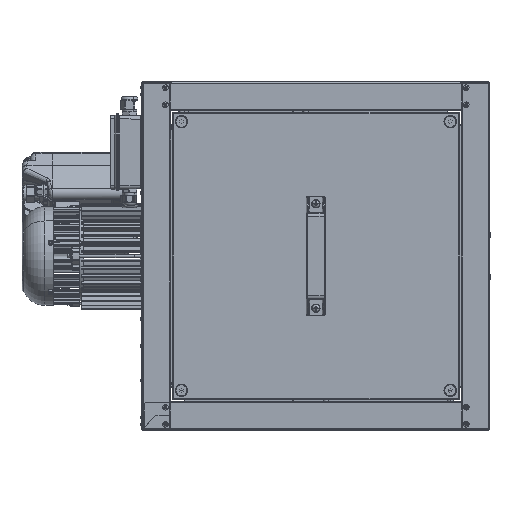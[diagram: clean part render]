
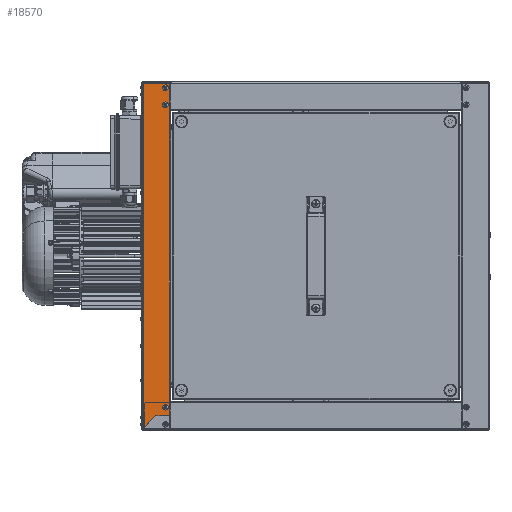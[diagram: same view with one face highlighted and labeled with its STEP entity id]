
A CAD part, left-side view. The second image highlights one B-rep face of the part: STEP entity #18570.
In plain terms, the highlighted planar face has unit normal (-1, 0, 0).
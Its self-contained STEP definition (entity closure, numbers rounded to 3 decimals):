
#2804 = ORIENTED_EDGE ( 'NONE', *, *, #77890, .T. ) ;
#2831 = CIRCLE ( 'NONE', #65256, 2.1 ) ;
#4636 = EDGE_CURVE ( 'NONE', #81532, #29866, #13380, .T. ) ;
#5953 = AXIS2_PLACEMENT_3D ( 'NONE', #75338, #13467, #85769 ) ;
#6343 = VERTEX_POINT ( 'NONE', #51614 ) ;
#9723 = VECTOR ( 'NONE', #104517, 1000. ) ;
#10099 = VERTEX_POINT ( 'NONE', #45377 ) ;
#11770 = CARTESIAN_POINT ( 'NONE',  ( -250., 249.1, -248.45 ) ) ;
#12298 = CARTESIAN_POINT ( 'NONE',  ( -250., 210.2, 248. ) ) ;
#13380 = CIRCLE ( 'NONE', #24421, 2.1 ) ;
#13467 = DIRECTION ( 'NONE',  ( -1., 0., 0. ) ) ;
#13636 = CARTESIAN_POINT ( 'NONE',  ( -250., 216., -217.2 ) ) ;
#15417 = CARTESIAN_POINT ( 'NONE',  ( -250., 210.7, -210.05 ) ) ;
#15542 = CARTESIAN_POINT ( 'NONE',  ( -250., 216., 217.2 ) ) ;
#15855 = VECTOR ( 'NONE', #82272, 1000. ) ;
#17386 = FACE_BOUND ( 'NONE', #42751, .T. ) ;
#18277 = VERTEX_POINT ( 'NONE', #15417 ) ;
#18570 = ADVANCED_FACE ( 'NONE', ( #48072, #17386, #23850, #20629 ), #89501, .F. ) ;
#19778 = CARTESIAN_POINT ( 'NONE',  ( -250., 210.2, 211.65 ) ) ;
#20243 = CARTESIAN_POINT ( 'NONE',  ( -250., 210.7, 211.65 ) ) ;
#20629 = FACE_OUTER_BOUND ( 'NONE', #77263, .T. ) ;
#21026 = DIRECTION ( 'NONE',  ( -1., 0., 0. ) ) ;
#22090 = VERTEX_POINT ( 'NONE', #82343 ) ;
#22259 = VERTEX_POINT ( 'NONE', #118310 ) ;
#23850 = FACE_BOUND ( 'NONE', #107958, .T. ) ;
#23961 = VECTOR ( 'NONE', #69125, 1000. ) ;
#24032 = DIRECTION ( 'NONE',  ( 0., -1., 0. ) ) ;
#24421 = AXIS2_PLACEMENT_3D ( 'NONE', #35332, #117933, #66458 ) ;
#24432 = EDGE_CURVE ( 'NONE', #121245, #65816, #43296, .T. ) ;
#25881 = DIRECTION ( 'NONE',  ( 0., -1., 0. ) ) ;
#25906 = DIRECTION ( 'NONE',  ( 0., -1., 0. ) ) ;
#29414 = VECTOR ( 'NONE', #82807, 1000. ) ;
#29866 = VERTEX_POINT ( 'NONE', #131363 ) ;
#32202 = CARTESIAN_POINT ( 'NONE',  ( -250., 213.9, 241.7 ) ) ;
#33048 = VECTOR ( 'NONE', #41844, 1000. ) ;
#33063 = VERTEX_POINT ( 'NONE', #19778 ) ;
#33497 = VECTOR ( 'NONE', #42975, 1000. ) ;
#34228 = DIRECTION ( 'NONE',  ( -1., 0., 0. ) ) ;
#35160 = LINE ( 'NONE', #78354, #117540 ) ;
#35332 = CARTESIAN_POINT ( 'NONE',  ( -250., 216., 241.7 ) ) ;
#39138 = CIRCLE ( 'NONE', #53049, 2.1 ) ;
#41844 = DIRECTION ( 'NONE',  ( 0., 1., 0. ) ) ;
#42751 = EDGE_LOOP ( 'NONE', ( #94051, #53001 ) ) ;
#42975 = DIRECTION ( 'NONE',  ( 0., 0.707, -0.707 ) ) ;
#43011 = CARTESIAN_POINT ( 'NONE',  ( -250., 210.7, 211.65 ) ) ;
#43296 = LINE ( 'NONE', #78335, #15855 ) ;
#45377 = CARTESIAN_POINT ( 'NONE',  ( -250., 210.2, -210.05 ) ) ;
#46279 = CARTESIAN_POINT ( 'NONE',  ( -250., 218.1, 217.2 ) ) ;
#47155 = EDGE_CURVE ( 'NONE', #22090, #120906, #72453, .T. ) ;
#47387 = VERTEX_POINT ( 'NONE', #20243 ) ;
#48072 = FACE_BOUND ( 'NONE', #129779, .T. ) ;
#48307 = EDGE_CURVE ( 'NONE', #87584, #22259, #57728, .T. ) ;
#49268 = EDGE_CURVE ( 'NONE', #87584, #6343, #60966, .T. ) ;
#49826 = ORIENTED_EDGE ( 'NONE', *, *, #49268, .F. ) ;
#51017 = EDGE_CURVE ( 'NONE', #47387, #33063, #52626, .T. ) ;
#51614 = CARTESIAN_POINT ( 'NONE',  ( -250., 248., -247.35 ) ) ;
#51944 = EDGE_CURVE ( 'NONE', #10099, #18277, #60534, .T. ) ;
#51971 = CARTESIAN_POINT ( 'NONE',  ( -250., 218.1, -217.2 ) ) ;
#52041 = EDGE_CURVE ( 'NONE', #29866, #81532, #78282, .T. ) ;
#52499 = CARTESIAN_POINT ( 'NONE',  ( -250., 210.2, -210.05 ) ) ;
#52626 = LINE ( 'NONE', #43011, #131711 ) ;
#52952 = ORIENTED_EDGE ( 'NONE', *, *, #64750, .F. ) ;
#53001 = ORIENTED_EDGE ( 'NONE', *, *, #66963, .F. ) ;
#53049 = AXIS2_PLACEMENT_3D ( 'NONE', #13636, #85924, #24032 ) ;
#53320 = ORIENTED_EDGE ( 'NONE', *, *, #51944, .T. ) ;
#56182 = ORIENTED_EDGE ( 'NONE', *, *, #24432, .T. ) ;
#56929 = LINE ( 'NONE', #82376, #29414 ) ;
#57728 = LINE ( 'NONE', #85102, #78683 ) ;
#59875 = CIRCLE ( 'NONE', #89460, 2.1 ) ;
#60534 = LINE ( 'NONE', #72955, #33048 ) ;
#60966 = LINE ( 'NONE', #11770, #33497 ) ;
#63786 = EDGE_CURVE ( 'NONE', #133601, #122039, #39138, .T. ) ;
#64616 = ORIENTED_EDGE ( 'NONE', *, *, #63786, .F. ) ;
#64750 = EDGE_CURVE ( 'NONE', #122039, #133601, #59875, .T. ) ;
#65256 = AXIS2_PLACEMENT_3D ( 'NONE', #15542, #87787, #25881 ) ;
#65816 = VERTEX_POINT ( 'NONE', #131978 ) ;
#66458 = DIRECTION ( 'NONE',  ( 0., -1., 0. ) ) ;
#66963 = EDGE_CURVE ( 'NONE', #120906, #22090, #2831, .T. ) ;
#69125 = DIRECTION ( 'NONE',  ( 0., 0., 1. ) ) ;
#70834 = EDGE_CURVE ( 'NONE', #33063, #121245, #106423, .T. ) ;
#72453 = CIRCLE ( 'NONE', #5953, 2.1 ) ;
#72710 = ORIENTED_EDGE ( 'NONE', *, *, #51017, .T. ) ;
#72955 = CARTESIAN_POINT ( 'NONE',  ( -250., 210.7, -210.05 ) ) ;
#75338 = CARTESIAN_POINT ( 'NONE',  ( -250., 216., 217.2 ) ) ;
#76035 = CARTESIAN_POINT ( 'NONE',  ( -250., 213.9, -217.2 ) ) ;
#77263 = EDGE_LOOP ( 'NONE', ( #56182, #96417, #49826, #117519, #2804, #53320, #106706, #72710, #106921 ) ) ;
#77890 = EDGE_CURVE ( 'NONE', #22259, #10099, #92238, .T. ) ;
#78282 = CIRCLE ( 'NONE', #131629, 2.1 ) ;
#78335 = CARTESIAN_POINT ( 'NONE',  ( -250., 210.2, 248. ) ) ;
#78354 = CARTESIAN_POINT ( 'NONE',  ( -250., 210.7, 248.95 ) ) ;
#78683 = VECTOR ( 'NONE', #25906, 1000. ) ;
#80044 = EDGE_CURVE ( 'NONE', #47387, #18277, #35160, .T. ) ;
#81532 = VERTEX_POINT ( 'NONE', #32202 ) ;
#82272 = DIRECTION ( 'NONE',  ( 0., 1., 0. ) ) ;
#82343 = CARTESIAN_POINT ( 'NONE',  ( -250., 213.9, 217.2 ) ) ;
#82376 = CARTESIAN_POINT ( 'NONE',  ( -250., 248., 248.95 ) ) ;
#82807 = DIRECTION ( 'NONE',  ( 0., 0., -1. ) ) ;
#82866 = CARTESIAN_POINT ( 'NONE',  ( -250., 216., 241.7 ) ) ;
#85102 = CARTESIAN_POINT ( 'NONE',  ( -250., 210.2, -229.1 ) ) ;
#85769 = DIRECTION ( 'NONE',  ( 0., -1., 0. ) ) ;
#85924 = DIRECTION ( 'NONE',  ( -1., 0., 0. ) ) ;
#87584 = VERTEX_POINT ( 'NONE', #100519 ) ;
#87787 = DIRECTION ( 'NONE',  ( -1., 0., 0. ) ) ;
#88702 = EDGE_CURVE ( 'NONE', #65816, #6343, #56929, .T. ) ;
#89460 = AXIS2_PLACEMENT_3D ( 'NONE', #96190, #34228, #106550 ) ;
#89501 = PLANE ( 'NONE',  #92181 ) ;
#92181 = AXIS2_PLACEMENT_3D ( 'NONE', #121576, #121147, #123347 ) ;
#92238 = LINE ( 'NONE', #52499, #9723 ) ;
#93327 = DIRECTION ( 'NONE',  ( 0., -1., 0. ) ) ;
#94051 = ORIENTED_EDGE ( 'NONE', *, *, #47155, .F. ) ;
#96190 = CARTESIAN_POINT ( 'NONE',  ( -250., 216., -217.2 ) ) ;
#96417 = ORIENTED_EDGE ( 'NONE', *, *, #88702, .T. ) ;
#100519 = CARTESIAN_POINT ( 'NONE',  ( -250., 229.75, -229.1 ) ) ;
#104517 = DIRECTION ( 'NONE',  ( 0., 0., 1. ) ) ;
#106423 = LINE ( 'NONE', #110223, #23961 ) ;
#106550 = DIRECTION ( 'NONE',  ( 0., -1., 0. ) ) ;
#106706 = ORIENTED_EDGE ( 'NONE', *, *, #80044, .F. ) ;
#106921 = ORIENTED_EDGE ( 'NONE', *, *, #70834, .T. ) ;
#107958 = EDGE_LOOP ( 'NONE', ( #110848, #131613 ) ) ;
#110223 = CARTESIAN_POINT ( 'NONE',  ( -250., 210.2, 211.65 ) ) ;
#110848 = ORIENTED_EDGE ( 'NONE', *, *, #4636, .F. ) ;
#115219 = DIRECTION ( 'NONE',  ( 0., -1., 0. ) ) ;
#117519 = ORIENTED_EDGE ( 'NONE', *, *, #48307, .T. ) ;
#117540 = VECTOR ( 'NONE', #120278, 1000. ) ;
#117933 = DIRECTION ( 'NONE',  ( -1., 0., 0. ) ) ;
#118310 = CARTESIAN_POINT ( 'NONE',  ( -250., 210.2, -229.1 ) ) ;
#120278 = DIRECTION ( 'NONE',  ( 0., 0., -1. ) ) ;
#120906 = VERTEX_POINT ( 'NONE', #46279 ) ;
#121147 = DIRECTION ( 'NONE',  ( 1., 0., 0. ) ) ;
#121245 = VERTEX_POINT ( 'NONE', #12298 ) ;
#121576 = CARTESIAN_POINT ( 'NONE',  ( -250., 250., 248.95 ) ) ;
#122039 = VERTEX_POINT ( 'NONE', #76035 ) ;
#123347 = DIRECTION ( 'NONE',  ( 0., 1., 0. ) ) ;
#129779 = EDGE_LOOP ( 'NONE', ( #52952, #64616 ) ) ;
#131363 = CARTESIAN_POINT ( 'NONE',  ( -250., 218.1, 241.7 ) ) ;
#131613 = ORIENTED_EDGE ( 'NONE', *, *, #52041, .F. ) ;
#131629 = AXIS2_PLACEMENT_3D ( 'NONE', #82866, #21026, #93327 ) ;
#131711 = VECTOR ( 'NONE', #115219, 1000. ) ;
#131978 = CARTESIAN_POINT ( 'NONE',  ( -250., 248., 248. ) ) ;
#133601 = VERTEX_POINT ( 'NONE', #51971 ) ;
